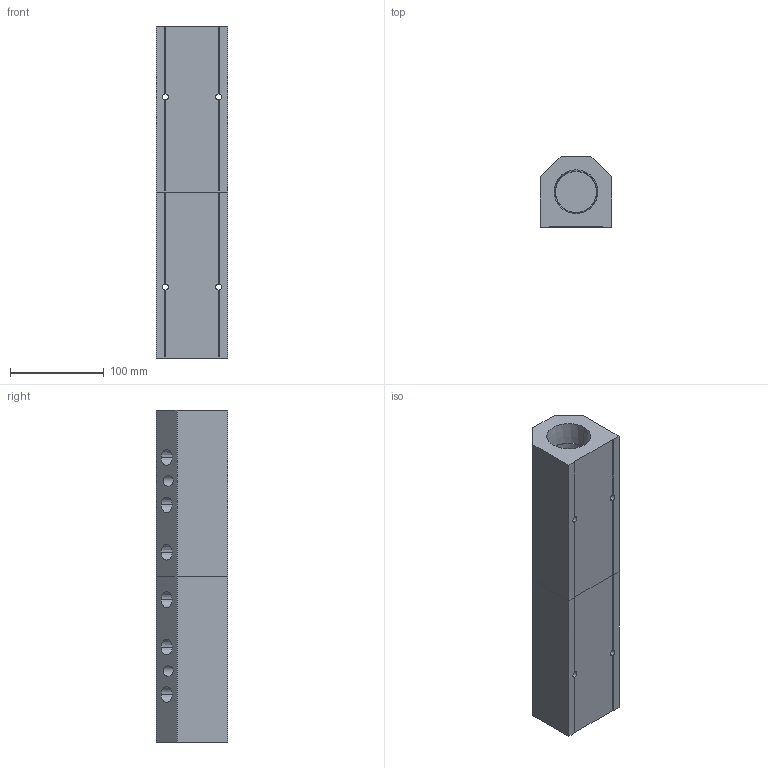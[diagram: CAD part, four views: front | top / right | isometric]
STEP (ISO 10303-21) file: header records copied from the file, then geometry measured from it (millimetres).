
FILE_DESCRIPTION (( 'STEP AP214' ), '1' );
FILE_NAME ('ALM6BD-N6N24-355RB.step', '2022-02-07T09:16:07', ( '' ), ( '' ), 'SwSTEP 2.0', 'SolidWorks 2020', '' );
FILE_SCHEMA (( 'AUTOMOTIVE_DESIGN' ));
Length unit declared in the file: millimetre
Products named in the file (1): ALM6BD-N6N24-355RB
Bounding box: 76.2 x 76.2 x 355 mm (x, y, z)
Volume: 1281637.7 mm3; surface area: 179917.5 mm2
Topology: 2 solids, 2 shells, 366 faces, 964 edges, 640 vertices
Faces by surface type: plane 233, bspline 85, cone 28, cylinder 20
Entity records: 20853 total; most frequent: CARTESIAN_POINT 8890, ORIENTED_EDGE 1928, DIRECTION 1382, EDGE_CURVE 964, LINE 690, VECTOR 690, VERTEX_POINT 640, EDGE_LOOP 436
